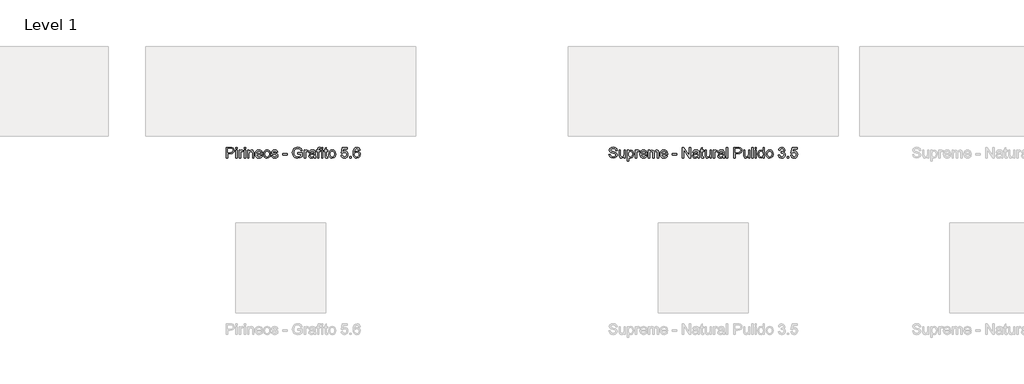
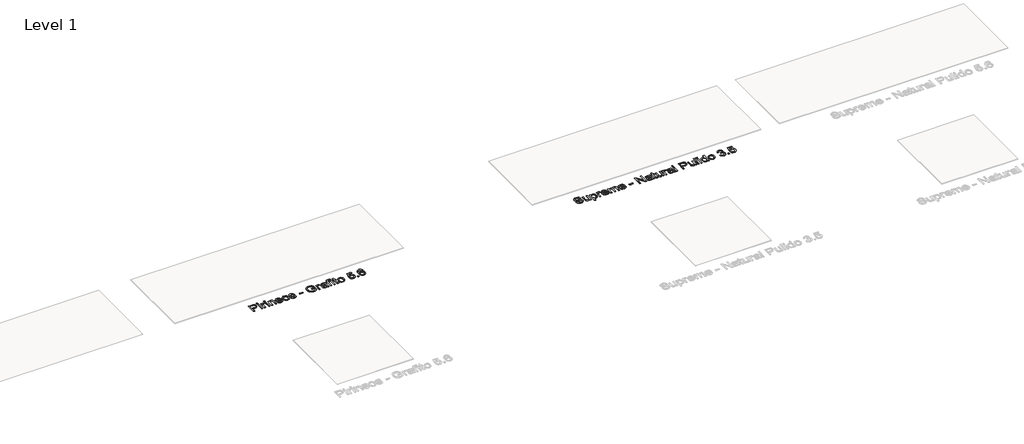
# One storey, part 62 of 80: 2 proxies.
"""IFC4 building model written with IfcOpenShell, lengths in millimetres."""

import ifcopenshell
import ifcopenshell.guid

model = None  # the IFC model being written
_history = None  # IfcOwnerHistory: only IFC2X3 demands one
_inside = {}  # id of a spatial element -> (the spatial element, [elements in it])
_under = {}  # id of a project, library or spatial element -> (it, [spatial elements below it])
_declared = {}  # id of a project -> (the project, [libraries it declares])
_typed = {}  # id of a type object -> (the type object, [elements of that type])
_made_of = {}  # id of a material, layer set ... -> (it, [elements and type objects made of it])


def new_model(schema):
    """Start an empty IFC model of exactly this schema.

    Asked for "IFC4X3", IfcOpenShell would pick the latest addendum, in which some entities
    have other attributes; the version numbers below select the first issue.
    IFC2X3 requires an IfcOwnerHistory on every rooted entity: one is made here for all.
    """
    global model, _history
    if schema == "IFC4X3":
        model = ifcopenshell.file(schema_version=(4, 3, 0, 0))
    else:
        model = ifcopenshell.file(schema=schema)
    _inside.clear()
    _under.clear()
    _declared.clear()
    _typed.clear()
    _made_of.clear()
    _history = None
    if model.schema == "IFC2X3":
        org = make("IfcOrganization", Name="unknown")
        user = make(
            "IfcPersonAndOrganization",
            ThePerson=make("IfcPerson", FamilyName="unknown"),
            TheOrganization=org,
        )
        app = make(
            "IfcApplication",
            ApplicationDeveloper=org,
            Version="unknown",
            ApplicationFullName="unknown",
            ApplicationIdentifier="unknown",
        )
        _history = make(
            "IfcOwnerHistory",
            OwningUser=user,
            OwningApplication=app,
            ChangeAction="ADDED",
            CreationDate=0,
        )
    return model


def make(cls, **values):
    """One entity of the class cls with the attributes given. An attribute that is None is left unset."""
    return model.create_entity(
        cls, **{name: value for name, value in values.items() if value is not None}
    )


def rooted(cls, **values):
    """An entity with a GlobalId (a new one), such as an element, a storey or a relation."""
    return make(cls, GlobalId=ifcopenshell.guid.new(), OwnerHistory=_history, **values)


def si_unit(unit_type, name, prefix=None):
    """IfcSIUnit, for example si_unit("LENGTHUNIT", "METRE", prefix="MILLI")."""
    return make("IfcSIUnit", UnitType=unit_type, Prefix=prefix, Name=name)


def assignment(units):
    """IfcUnitAssignment: the units of a project."""
    return None if units is None else make("IfcUnitAssignment", Units=units)


def point(xyz):
    """IfcCartesianPoint."""
    return None if xyz is None else make("IfcCartesianPoint", Coordinates=xyz)


def direction(xyz):
    """IfcDirection."""
    return None if xyz is None else make("IfcDirection", DirectionRatios=xyz)


def frame(location, z_axis=None, x_axis=None):
    """IfcAxis2Placement3D, a coordinate frame: its origin and axes. An axis left out is left unset."""
    return make(
        "IfcAxis2Placement3D",
        Location=point(location),
        Axis=direction(z_axis),
        RefDirection=direction(x_axis),
    )


def origin():
    """The frame at (0, 0, 0) with its axes left unset."""
    return frame((0.0, 0.0, 0.0))


def origin_with_axes():
    """The frame at (0, 0, 0) with the z axis (0, 0, 1) and the x axis (1, 0, 0) written out."""
    return frame((0.0, 0.0, 0.0), z_axis=(0.0, 0.0, 1.0), x_axis=(1.0, 0.0, 0.0))


def place(relative_to, where):
    """IfcLocalPlacement: puts the frame where relative to a parent placement (None: the world)."""
    return make(
        "IfcLocalPlacement", PlacementRelTo=relative_to, RelativePlacement=where
    )


def context(
    kind, dimensions, precision=None, world=None, true_north=None, identifier=None
):
    """IfcGeometricRepresentationContext, for example the 3D "Model" context."""
    return make(
        "IfcGeometricRepresentationContext",
        ContextIdentifier=identifier,
        ContextType=kind,
        CoordinateSpaceDimension=dimensions,
        Precision=precision,
        WorldCoordinateSystem=world,
        TrueNorth=true_north,
    )


def project(units=None, contexts=None):
    """IfcProject with its units and contexts."""
    return rooted(
        "IfcProject",
        Name="project",
        RepresentationContexts=contexts,
        UnitsInContext=assignment(units),
    )


def spatial(cls, under=None, at=None, **own):
    """A site, building, storey or space (cls), placed at a placement, below another one or the project."""
    s = rooted(cls, ObjectPlacement=at, **own)
    if under is not None:
        _under.setdefault(under.id(), (under, []))[1].append(s)
    return s


def polyline(points):
    """IfcPolyline through the points."""
    return make("IfcPolyline", Points=[point(p) for p in points])


def outline(outer, holes=None, kind="AREA"):
    """IfcArbitraryClosedProfileDef: a profile drawn as a closed curve; with holes, ...WithVoids."""
    if holes is None:
        return make("IfcArbitraryClosedProfileDef", ProfileType=kind, OuterCurve=outer)
    return make(
        "IfcArbitraryProfileDefWithVoids",
        ProfileType=kind,
        OuterCurve=outer,
        InnerCurves=holes,
    )


def extrude(swept, where, along, depth):
    """IfcExtrudedAreaSolid: the profile swept, set in the frame where, extruded along a direction by depth."""
    return make(
        "IfcExtrudedAreaSolid",
        SweptArea=swept,
        Position=where,
        ExtrudedDirection=direction(along),
        Depth=depth,
    )


def shape(context_of_items, identifier, shape_type, items):
    """IfcShapeRepresentation: the items that make up one representation, for example the "Body"."""
    return make(
        "IfcShapeRepresentation",
        ContextOfItems=context_of_items,
        RepresentationIdentifier=identifier,
        RepresentationType=shape_type,
        Items=items,
    )


def made_of(thing, what):
    """Note that an element or type object is made of a material, layer set ...; save() writes the relation."""
    if what is not None:
        _made_of.setdefault(what.id(), (what, []))[1].append(thing)
    return thing


def element(
    cls,
    number,
    at=None,
    inside=None,
    cuts=None,
    type_object=None,
    material=None,
    context=None,
    identifier="Body",
    shape_type=None,
    held_by="IfcProductDefinitionShape",
    body=None,
    shapes=None,
    **own,
):
    """One element of the class cls, such as IfcWall. Its Tag is "e" and its number.

    at: its placement. inside: the storey or other place that contains it. cuts: it is an
    opening in that element (IfcRelVoidsElement). A single representation is given by context,
    identifier, shape_type and body (its items); several are given by shapes. held_by: the class
    of the entity that holds the representations. save() writes the other relations.
    """
    e = rooted(cls, Tag="e%d" % number, ObjectPlacement=at, **own)
    if body is not None:
        shapes = [shape(context, identifier, shape_type, body)]
    if shapes is not None:
        e.Representation = make(held_by, Representations=shapes)
    if inside is not None:
        _inside.setdefault(inside.id(), (inside, []))[1].append(e)
    if cuts is not None:
        rooted(
            "IfcRelVoidsElement", RelatingBuildingElement=cuts, RelatedOpeningElement=e
        )
    if type_object is not None:
        _typed.setdefault(type_object.id(), (type_object, []))[1].append(e)
    return made_of(e, material)


def aggregate(whole, parts):
    """IfcRelAggregates: a whole, such as a stair, and the parts it consists of."""
    return rooted("IfcRelAggregates", RelatingObject=whole, RelatedObjects=parts)


def save(model, path):
    """Write the relations noted so far, then the file.

    IfcRelAggregates (storeys below a building ...), IfcRelContainedInSpatialStructure (elements
    in a storey), IfcRelDefinesByType, IfcRelAssociatesMaterial and IfcRelDeclares: one each for
    every whole, place, type object, material and project.
    """
    for whole, parts in _under.values():
        aggregate(whole, parts)
    for where, things in _inside.values():
        rooted(
            "IfcRelContainedInSpatialStructure",
            RelatedElements=things,
            RelatingStructure=where,
        )
    for kind, things in _typed.values():
        rooted("IfcRelDefinesByType", RelatedObjects=things, RelatingType=kind)
    for what, things in _made_of.values():
        rooted("IfcRelAssociatesMaterial", RelatedObjects=things, RelatingMaterial=what)
    for by, libraries in _declared.values():
        rooted("IfcRelDeclares", RelatingContext=by, RelatedDefinitions=libraries)
    model.write(path)


model = new_model("IFC4")

# Units and contexts
model_context = context("Model", 3, world=origin())
ifc_project = project(units=[si_unit("LENGTHUNIT", "METRE", prefix="MILLI")], contexts=[model_context])

# Site, building, storey
site = spatial("IfcSite", under=ifc_project)
building = spatial("IfcBuilding", under=site)
storey = spatial("IfcBuildingStorey", under=building, Name="Level 1", Elevation=0.0)

# Proxies
placement = place(None, origin())
element("IfcBuildingElementProxy", 1, Name="24\" Arial", ObjectType="24\" Arial", at=placement, inside=storey, context=model_context, shape_type="SweptSolid", body=[
    extrude(outline(polyline([(229.846969, 1348.728562), (229.846969, 1466.8824082), (273.6354306, 1466.8824082), (291.2892767, 1465.7574082), (305.6402383, 1460.2333697), (314.9431229, 1448.8102928), (318.4623536, 1432.6997159), (316.0861517, 1418.7742351), (308.9575459, 1407.1708697), (295.6270171, 1399.339139), (274.6450459, 1396.728562), (244.6161998, 1396.728562), (244.6161998, 1348.728562), (229.846969, 1348.728562)]), holes=[polyline([(244.6161998, 1411.4977928), (275.5104306, 1411.4977928), (288.6065844, 1412.853562), (297.2604306, 1416.9208697), (302.0849498, 1423.447312), (303.6931229, 1432.1804851), (299.8998536, 1444.4112544), (289.9335075, 1451.103562), (275.1642767, 1452.1131774), (244.6161998, 1452.1131774), (244.6161998, 1411.4977928)])]), origin_with_axes(), (0.0, 0.0, 1.0), 2.0),
    extrude(outline(polyline([(336.9238921, 1348.728562), (336.9238921, 1435.4977928), (351.6931229, 1435.4977928), (351.6931229, 1348.728562), (336.9238921, 1348.728562)])), origin_with_axes(), (0.0, 0.0, 1.0), 2.0),
    extrude(outline(polyline([(336.9238921, 1452.1131774), (336.9238921, 1466.8824082), (351.6931229, 1466.8824082), (351.6931229, 1452.1131774), (336.9238921, 1452.1131774)])), origin_with_axes(), (0.0, 0.0, 1.0), 2.0),
    extrude(outline(polyline([(373.846969, 1348.728562), (373.846969, 1435.4977928), (386.7700459, 1435.4977928), (386.7700459, 1422.6612544), (395.9431229, 1434.4881774), (405.1738921, 1437.3439467), (420.0008152, 1432.7862544), (415.0681229, 1419.5458697), (404.6835075, 1422.5747159), (396.3325459, 1419.6612544), (391.0104306, 1411.5843313), (388.6161998, 1394.3343313), (388.6161998, 1348.728562), (373.846969, 1348.728562)])), origin_with_axes(), (0.0, 0.0, 1.0), 2.0),
    extrude(outline(polyline([(429.2315844, 1348.728562), (429.2315844, 1435.4977928), (444.0008152, 1435.4977928), (444.0008152, 1348.728562), (429.2315844, 1348.728562)])), origin_with_axes(), (0.0, 0.0, 1.0), 2.0),
    extrude(outline(polyline([(429.2315844, 1452.1131774), (429.2315844, 1466.8824082), (444.0008152, 1466.8824082), (444.0008152, 1452.1131774), (429.2315844, 1452.1131774)])), origin_with_axes(), (0.0, 0.0, 1.0), 2.0),
    extrude(outline(polyline([(466.1546613, 1348.728562), (466.1546613, 1435.4977928), (480.9238921, 1435.4977928), (480.9238921, 1423.3824082), (492.2171613, 1433.853562), (507.6354306, 1437.3439467), (521.5825459, 1434.5314467), (531.1017767, 1427.1468313), (535.5296613, 1416.2862544), (536.3085075, 1402.0074082), (536.3085075, 1348.728562), (521.5392767, 1348.728562), (521.5392767, 1400.0170236), (519.8373536, 1413.0843313), (513.8229306, 1419.9929851), (503.6835075, 1422.5747159), (487.659469, 1416.776639), (482.6077863, 1408.3751967), (480.9238921, 1394.7670236), (480.9238921, 1348.728562), (466.1546613, 1348.728562)])), origin_with_axes(), (0.0, 0.0, 1.0), 2.0),
    extrude(outline(polyline([(617.3661998, 1374.5747159), (631.846969, 1372.728562), (626.6294209, 1361.8175044), (618.3036998, 1353.6612544), (607.0573056, 1348.5771197), (593.0777383, 1346.8824082), (575.7484113, 1349.806687), (562.4142767, 1358.5795236), (553.9118729, 1372.6312063), (551.0777383, 1391.3920236), (553.940719, 1410.7838505), (562.5296613, 1425.2862544), (575.6835075, 1434.3295236), (592.2411998, 1437.3439467), (608.2832671, 1434.3367351), (621.1017767, 1425.3151005), (629.5068248, 1410.8415428), (632.3085075, 1391.478562), (632.221969, 1387.4977928), (565.846969, 1387.4977928), (568.4034594, 1376.4425044), (574.3421613, 1368.3151005), (582.9130748, 1363.3175044), (593.3661998, 1361.651639), (607.846969, 1364.7381774), (617.3661998, 1374.5747159)]), holes=[polyline([(565.846969, 1402.2670236), (617.5392767, 1402.2670236), (611.6258152, 1415.651639), (603.0152383, 1420.8439467), (592.1835075, 1422.5747159), (573.9960075, 1417.0506774), (568.2736517, 1410.5927447), (565.846969, 1402.2670236)])]), origin_with_axes(), (0.0, 0.0, 1.0), 2.0),
    extrude(outline(polyline([(643.3854306, 1392.1131774), (646.5801421, 1413.0338505), (656.1642767, 1427.7381774), (668.0056229, 1434.9425044), (682.1835075, 1437.3439467), (697.6991325, 1434.4196678), (710.0921613, 1425.6468313), (718.2159594, 1411.7177447), (720.9238921, 1393.3247159), (716.1354306, 1367.0458697), (702.1883152, 1352.1756774), (682.1835075, 1346.8824082), (666.4803825, 1349.7958697), (654.1017767, 1358.5362544), (646.0645171, 1372.7574082), (643.3854306, 1392.1131774)]), holes=[polyline([(658.1546613, 1392.1420236), (659.8637959, 1378.775437), (664.9911998, 1369.2526005), (672.7075459, 1363.5518794), (682.1835075, 1361.651639), (691.6161998, 1363.5626967), (699.3181229, 1369.2958697), (704.4455267, 1378.9449082), (706.1546613, 1392.603562), (704.4347094, 1405.5807255), (699.2748536, 1414.9737544), (691.5621133, 1420.6744755), (682.1835075, 1422.5747159), (672.7075459, 1420.681687), (664.9911998, 1415.0026005), (659.8637959, 1405.5013986), (658.1546613, 1392.1420236)])]), origin_with_axes(), (0.0, 0.0, 1.0), 2.0),
    extrude(outline(polyline([(732.0008152, 1374.5747159), (746.7700459, 1376.4208697), (753.6065844, 1365.4593313), (769.2700459, 1361.651639), (784.3277383, 1365.1420236), (789.2315844, 1373.3343313), (784.2988921, 1379.9689467), (769.096969, 1384.1804851), (746.8565844, 1391.4064467), (737.1498536, 1399.8439467), (733.846969, 1411.7574082), (736.5008152, 1422.7622159), (743.7411998, 1431.1708697), (753.1306229, 1435.541062), (765.8373536, 1437.3439467), (783.8085075, 1434.4449082), (795.2315844, 1426.5987544), (800.3085075, 1413.3439467), (785.5392767, 1411.4977928), (779.9863921, 1419.6468313), (766.9911998, 1422.5747159), (752.8565844, 1419.776639), (748.6161998, 1413.2574082), (750.3758152, 1408.9593313), (755.8854306, 1405.6997159), (768.6065844, 1402.5554851), (790.284469, 1395.603562), (800.3517767, 1387.728562), (804.0008152, 1374.8920236), (799.7171613, 1360.7574082), (787.3565844, 1350.5026005), (769.0681229, 1346.8824082), (754.1762959, 1348.6276005), (743.3085075, 1353.8631774), (736.0536998, 1362.5314467), (732.0008152, 1374.5747159)])), origin_with_axes(), (0.0, 0.0, 1.0), 2.0),
    extrude(outline(polyline([(859.3854306, 1383.8054851), (859.3854306, 1398.5747159), (905.5392767, 1398.5747159), (905.5392767, 1383.8054851), (859.3854306, 1383.8054851)])), origin_with_axes(), (0.0, 0.0, 1.0), 2.0),
    extrude(outline(polyline([(1025.5392767, 1394.8824082), (1025.5392767, 1409.651639), (1073.5392767, 1409.651639), (1073.5392767, 1365.4881774), (1049.8421613, 1351.5554851), (1024.7892767, 1346.8824082), (1008.2207671, 1348.7393794), (993.2460075, 1354.3102928), (980.8061036, 1363.400437), (971.8421613, 1375.8151005), (966.4226902, 1390.7069274), (964.6161998, 1407.228562), (966.4154786, 1423.869187), (971.8133152, 1439.3487544), (980.5861517, 1452.3331294), (992.5104306, 1461.4881774), (1007.034469, 1466.9184659), (1023.6065844, 1468.728562), (1046.7123536, 1464.5314467), (1062.909469, 1452.8487544), (1071.8373536, 1433.3054851), (1058.221969, 1429.4689467), (1051.4863921, 1443.1276005), (1039.9767767, 1451.0026005), (1023.3758152, 1453.9593313), (1004.4671613, 1450.7718313), (991.6017767, 1442.4064467), (984.0008152, 1431.026639), (979.3854306, 1407.8343313), (980.7736517, 1393.7105332), (984.9383152, 1382.089139), (991.753219, 1373.0530813), (1001.0921613, 1366.6852928), (1023.6065844, 1361.651639), (1043.8133152, 1365.4449082), (1058.7700459, 1373.5362544), (1058.7700459, 1394.8824082), (1025.5392767, 1394.8824082)])), origin_with_axes(), (0.0, 0.0, 1.0), 2.0),
    extrude(outline(polyline([(1095.6931229, 1348.728562), (1095.6931229, 1435.4977928), (1108.6161998, 1435.4977928), (1108.6161998, 1422.6612544), (1117.7892767, 1434.4881774), (1127.0200459, 1437.3439467), (1141.846969, 1432.7862544), (1136.9142767, 1419.5458697), (1126.5296613, 1422.5747159), (1118.1786998, 1419.6612544), (1112.8565844, 1411.5843313), (1110.4623536, 1394.3343313), (1110.4623536, 1348.728562), (1095.6931229, 1348.728562)])), origin_with_axes(), (0.0, 0.0, 1.0), 2.0),
    extrude(outline(polyline([(1206.4623536, 1359.8054851), (1192.1402383, 1349.7958697), (1176.3181229, 1346.8824082), (1163.9755748, 1348.634812), (1154.8710075, 1353.8920236), (1149.2568248, 1361.8751967), (1147.3854306, 1371.8054851), (1150.2123536, 1383.4881774), (1157.6402383, 1391.9689467), (1167.9815844, 1396.8151005), (1180.7604306, 1399.0362544), (1206.3758152, 1404.1131774), (1206.4623536, 1407.401639), (1202.3950459, 1418.3054851), (1186.0681229, 1422.5747159), (1171.1258152, 1419.7333697), (1164.0008152, 1409.651639), (1149.2315844, 1411.4977928), (1155.6210075, 1425.9208697), (1168.4863921, 1434.3727928), (1187.971969, 1437.3439467), (1205.8710075, 1434.7189467), (1215.9815844, 1428.1276005), (1220.5104306, 1418.103562), (1221.2315844, 1405.1804851), (1221.2315844, 1386.8054851), (1221.9815844, 1361.1468313), (1224.9238921, 1348.728562), (1210.1546613, 1348.728562), (1206.4623536, 1359.8054851)]), holes=[polyline([(1206.4623536, 1389.3439467), (1182.6354306, 1384.8151005), (1169.9286998, 1382.4208697), (1164.1738921, 1378.526639), (1162.1546613, 1372.8439467), (1166.5536998, 1364.853562), (1179.4623536, 1361.651639), (1194.4046613, 1365.1852928), (1204.0392767, 1373.7381774), (1206.3758152, 1385.1612544), (1206.4623536, 1389.3439467)])]), origin_with_axes(), (0.0, 0.0, 1.0), 2.0),
    extrude(outline(polyline([(1245.2315844, 1348.728562), (1245.2315844, 1420.728562), (1232.3085075, 1420.728562), (1232.3085075, 1435.4977928), (1245.2315844, 1435.4977928), (1245.2315844, 1444.2381774), (1246.7892767, 1456.5554851), (1254.346969, 1465.353562), (1269.2315844, 1468.728562), (1282.7027383, 1467.1131774), (1280.5392767, 1453.2670236), (1272.0296613, 1453.9593313), (1262.7267767, 1451.5074082), (1260.0008152, 1442.3631774), (1260.0008152, 1435.4977928), (1276.6161998, 1435.4977928), (1276.6161998, 1420.728562), (1260.0008152, 1420.728562), (1260.0008152, 1348.728562), (1245.2315844, 1348.728562)])), origin_with_axes(), (0.0, 0.0, 1.0), 2.0),
    extrude(outline(polyline([(1289.5392767, 1348.728562), (1289.5392767, 1435.4977928), (1304.3085075, 1435.4977928), (1304.3085075, 1348.728562), (1289.5392767, 1348.728562)])), origin_with_axes(), (0.0, 0.0, 1.0), 2.0),
    extrude(outline(polyline([(1289.5392767, 1452.1131774), (1289.5392767, 1466.8824082), (1304.3085075, 1466.8824082), (1304.3085075, 1452.1131774), (1289.5392767, 1452.1131774)])), origin_with_axes(), (0.0, 0.0, 1.0), 2.0),
    extrude(outline(polyline([(1357.846969, 1361.0458697), (1359.6931229, 1348.2958697), (1348.6450459, 1346.8824082), (1336.2700459, 1349.3343313), (1330.096969, 1355.7670236), (1328.3085075, 1372.526639), (1328.3085075, 1420.728562), (1317.2315844, 1420.728562), (1317.2315844, 1435.4977928), (1328.3085075, 1435.4977928), (1328.3085075, 1456.5843313), (1343.0777383, 1465.2670236), (1343.0777383, 1435.4977928), (1357.846969, 1435.4977928), (1357.846969, 1420.728562), (1343.0777383, 1420.728562), (1343.0777383, 1372.9593313), (1343.8565844, 1365.3439467), (1346.3806229, 1362.6468313), (1351.4142767, 1361.651639), (1357.846969, 1361.0458697)])), origin_with_axes(), (0.0, 0.0, 1.0), 2.0),
    extrude(outline(polyline([(1368.9238921, 1392.1131774), (1372.1186036, 1413.0338505), (1381.7027383, 1427.7381774), (1393.5440844, 1434.9425044), (1407.721969, 1437.3439467), (1423.237594, 1434.4196678), (1435.6306229, 1425.6468313), (1443.7544209, 1411.7177447), (1446.4623536, 1393.3247159), (1441.6738921, 1367.0458697), (1427.7267767, 1352.1756774), (1407.721969, 1346.8824082), (1392.018844, 1349.7958697), (1379.6402383, 1358.5362544), (1371.6029786, 1372.7574082), (1368.9238921, 1392.1131774)]), holes=[polyline([(1383.6931229, 1392.1420236), (1385.4022575, 1378.775437), (1390.5296613, 1369.2526005), (1398.2460075, 1363.5518794), (1407.721969, 1361.651639), (1417.1546613, 1363.5626967), (1424.8565844, 1369.2958697), (1429.9839883, 1378.9449082), (1431.6931229, 1392.603562), (1429.9731709, 1405.5807255), (1424.8133152, 1414.9737544), (1417.1005748, 1420.6744755), (1407.721969, 1422.5747159), (1398.2460075, 1420.681687), (1390.5296613, 1415.0026005), (1385.4022575, 1405.5013986), (1383.6931229, 1392.1420236)])]), origin_with_axes(), (0.0, 0.0, 1.0), 2.0),
    extrude(outline(polyline([(1505.5392767, 1380.1131774), (1520.3085075, 1381.9593313), (1527.7508152, 1366.7429851), (1543.1835075, 1361.651639), (1553.7700459, 1363.4220717), (1561.7027383, 1368.7333697), (1566.6570652, 1376.9725524), (1568.3085075, 1387.526639), (1566.7616325, 1397.464139), (1562.1210075, 1405.0651005), (1554.3505748, 1409.8896197), (1543.4142767, 1411.4977928), (1530.4479306, 1408.9304851), (1522.1546613, 1402.2670236), (1507.3854306, 1404.1131774), (1520.3085075, 1465.0362544), (1577.5392767, 1465.0362544), (1577.5392767, 1450.2670236), (1532.2508152, 1450.2670236), (1525.9335075, 1417.728562), (1536.4839883, 1424.1324082), (1547.5392767, 1426.2670236), (1561.3385556, 1423.620389), (1572.7940844, 1415.6804851), (1580.5068248, 1403.5795236), (1583.0777383, 1388.4497159), (1580.7628344, 1373.6804851), (1573.8181229, 1361.0458697), (1560.5200459, 1350.4232736), (1543.1258152, 1346.8824082), (1528.6198056, 1349.1576486), (1517.0633152, 1355.9833697), (1509.1414402, 1366.5663024), (1505.5392767, 1380.1131774)])), origin_with_axes(), (0.0, 0.0, 1.0), 2.0),
    extrude(outline(polyline([(1603.3854306, 1348.728562), (1603.3854306, 1363.4977928), (1618.1546613, 1363.4977928), (1618.1546613, 1348.728562), (1603.3854306, 1348.728562)])), origin_with_axes(), (0.0, 0.0, 1.0), 2.0),
    extrude(outline(polyline([(1717.846969, 1435.4977928), (1703.0777383, 1433.651639), (1697.4815844, 1445.9689467), (1690.7820652, 1450.5771197), (1682.6835075, 1452.1131774), (1669.3565844, 1448.5362544), (1659.2748536, 1435.1083697), (1655.0777383, 1408.7862544), (1668.1017767, 1420.5699082), (1684.2411998, 1424.4208697), (1697.8854306, 1421.7886582), (1709.3373536, 1413.8920236), (1717.1041806, 1401.8271197), (1719.6931229, 1386.6901005), (1714.8181229, 1366.3102928), (1701.4046613, 1351.8872159), (1682.0488921, 1346.8824082), (1665.2928825, 1350.1997159), (1651.9479306, 1360.151639), (1643.2183633, 1377.7189467), (1640.3085075, 1403.8824082), (1643.5392767, 1433.2982736), (1653.2315844, 1453.4112544), (1666.4647575, 1463.5146197), (1683.6065844, 1466.8824082), (1696.565719, 1464.7982736), (1706.9431229, 1458.5458697), (1714.2123536, 1448.6155813), (1717.846969, 1435.4977928)]), holes=[polyline([(1655.0777383, 1386.9208697), (1658.4960075, 1374.1276005), (1667.5825459, 1364.839139), (1680.8950459, 1361.651639), (1690.6414402, 1363.3030813), (1698.3036998, 1368.2574082), (1703.268844, 1376.0458697), (1704.9238921, 1386.1997159), (1703.2904786, 1395.9461101), (1698.3902383, 1403.3776005), (1690.5981709, 1408.0831294), (1680.2892767, 1409.651639), (1670.5573056, 1408.0831294), (1662.4190844, 1403.3776005), (1656.9130748, 1396.1263986), (1655.0777383, 1386.9208697)])]), origin_with_axes(), (0.0, 0.0, 1.0), 2.0),
])
element("IfcBuildingElementProxy", 2, Name="24\" Arial", ObjectType="24\" Arial", at=placement, inside=storey, context=model_context, shape_type="SweptSolid", body=[
    extrude(outline(polyline([(4485.846969, 1389.3439467), (4500.6161998, 1389.3439467), (4505.3758152, 1374.5602928), (4517.0008152, 1365.214139), (4534.7123536, 1361.651639), (4550.1450459, 1364.3487544), (4560.1113921, 1371.7622159), (4563.3854306, 1381.6708697), (4560.9335075, 1390.8872159), (4550.8950459, 1397.5939467), (4529.3902383, 1403.2333697), (4506.2411998, 1410.5170236), (4493.6786998, 1421.5074082), (4489.5392767, 1436.1901005), (4494.659469, 1452.9064467), (4509.6161998, 1464.7045236), (4531.5104306, 1468.728562), (4554.8758152, 1464.5170236), (4570.4527383, 1452.1420236), (4576.3085075, 1433.651639), (4561.5392767, 1433.651639), (4558.8277383, 1442.464139), (4553.1738921, 1448.8247159), (4544.3397575, 1452.6756774), (4532.0873536, 1453.9593313), (4519.5464883, 1452.6901005), (4510.9431229, 1448.8824082), (4505.9671613, 1443.2790428), (4504.3085075, 1436.6227928), (4509.0104306, 1426.3824082), (4533.1258152, 1418.1324082), (4559.2604306, 1410.7189467), (4573.5536998, 1398.7477928), (4578.1546613, 1382.0458697), (4572.8613921, 1364.3776005), (4557.6306229, 1351.4833697), (4535.2892767, 1346.8824082), (4508.909469, 1351.8439467), (4499.4226902, 1358.0602928), (4492.221969, 1366.7862544), (4485.846969, 1389.3439467)])), origin_with_axes(), (0.0, 0.0, 1.0), 2.0),
    extrude(outline(polyline([(4653.846969, 1348.728562), (4653.846969, 1363.6420236), (4642.2796613, 1351.072312), (4627.1931229, 1346.8824082), (4613.3036998, 1349.8247159), (4603.7267767, 1357.2093313), (4599.3277383, 1368.0843313), (4598.4623536, 1381.8151005), (4598.4623536, 1435.4977928), (4613.2315844, 1435.4977928), (4613.2315844, 1388.7670236), (4614.1258152, 1373.7093313), (4619.9671613, 1364.8679851), (4630.971969, 1361.651639), (4643.3036998, 1364.9401005), (4651.4527383, 1373.8968313), (4653.846969, 1390.353562), (4653.846969, 1435.4977928), (4668.6161998, 1435.4977928), (4668.6161998, 1348.728562), (4653.846969, 1348.728562)])), origin_with_axes(), (0.0, 0.0, 1.0), 2.0),
    extrude(outline(polyline([(4688.9238921, 1315.4977928), (4688.9238921, 1435.4977928), (4703.6931229, 1435.4977928), (4703.6931229, 1421.0170236), (4713.9046613, 1433.2622159), (4727.6931229, 1437.3439467), (4746.4142767, 1431.6324082), (4758.6450459, 1415.5362544), (4762.7700459, 1392.776639), (4758.1113921, 1368.8487544), (4752.3998536, 1359.4593313), (4744.5825459, 1352.5506774), (4725.9046613, 1346.8824082), (4713.0536998, 1350.6756774), (4703.6931229, 1360.2670236), (4703.6931229, 1315.4977928), (4688.9238921, 1315.4977928)]), holes=[polyline([(4703.6931229, 1391.4208697), (4705.2904786, 1378.1804851), (4710.0825459, 1368.9208697), (4717.1534594, 1363.4689467), (4725.5873536, 1361.651639), (4734.1582671, 1363.5338505), (4741.409469, 1369.1804851), (4746.3529786, 1378.7790428), (4748.0008152, 1392.5170236), (4746.3926421, 1405.6852928), (4741.5681229, 1415.0747159), (4734.5080267, 1420.6997159), (4726.1931229, 1422.5747159), (4717.8457671, 1420.5807255), (4710.5152383, 1414.5987544), (4705.3986517, 1404.8163024), (4703.6931229, 1391.4208697)])]), origin_with_axes(), (0.0, 0.0, 1.0), 2.0),
    extrude(outline(polyline([(4779.3854306, 1348.728562), (4779.3854306, 1435.4977928), (4792.3085075, 1435.4977928), (4792.3085075, 1422.6612544), (4801.4815844, 1434.4881774), (4810.7123536, 1437.3439467), (4825.5392767, 1432.7862544), (4820.6065844, 1419.5458697), (4810.221969, 1422.5747159), (4801.8710075, 1419.6612544), (4796.5488921, 1411.5843313), (4794.1546613, 1394.3343313), (4794.1546613, 1348.728562), (4779.3854306, 1348.728562)])), origin_with_axes(), (0.0, 0.0, 1.0), 2.0),
    extrude(outline(polyline([(4895.5200459, 1374.5747159), (4910.0008152, 1372.728562), (4904.7832671, 1361.8175044), (4896.4575459, 1353.6612544), (4885.2111517, 1348.5771197), (4871.2315844, 1346.8824082), (4853.9022575, 1349.806687), (4840.5681229, 1358.5795236), (4832.065719, 1372.6312063), (4829.2315844, 1391.3920236), (4832.0945652, 1410.7838505), (4840.6835075, 1425.2862544), (4853.8373536, 1434.3295236), (4870.3950459, 1437.3439467), (4886.4371133, 1434.3367351), (4899.2556229, 1425.3151005), (4907.6606709, 1410.8415428), (4910.4623536, 1391.478562), (4910.3758152, 1387.4977928), (4844.0008152, 1387.4977928), (4846.5573056, 1376.4425044), (4852.4960075, 1368.3151005), (4861.0669209, 1363.3175044), (4871.5200459, 1361.651639), (4886.0008152, 1364.7381774), (4895.5200459, 1374.5747159)]), holes=[polyline([(4844.0008152, 1402.2670236), (4895.6931229, 1402.2670236), (4889.7796613, 1415.651639), (4881.1690844, 1420.8439467), (4870.3373536, 1422.5747159), (4852.1498536, 1417.0506774), (4846.4274979, 1410.5927447), (4844.0008152, 1402.2670236)])]), origin_with_axes(), (0.0, 0.0, 1.0), 2.0),
    extrude(outline(polyline([(4925.2315844, 1348.728562), (4925.2315844, 1435.4977928), (4940.0008152, 1435.4977928), (4940.0008152, 1421.2189467), (4950.1546613, 1432.916062), (4964.6065844, 1437.3439467), (4979.4046613, 1432.8295236), (4987.5392767, 1420.1804851), (4999.0633152, 1433.0530813), (5013.6161998, 1437.3439467), (5024.7183633, 1435.5590909), (5032.9286998, 1430.2045236), (5038.0020171, 1421.136014), (5039.6931229, 1408.2093313), (5039.6931229, 1348.728562), (5024.9238921, 1348.728562), (5024.9238921, 1401.8631774), (5023.5536998, 1414.1949082), (5018.5921613, 1420.2670236), (5010.1546613, 1422.5747159), (5002.1534594, 1421.0963505), (4995.6306229, 1416.6612544), (4991.2928825, 1408.9665428), (4989.846969, 1397.7093313), (4989.846969, 1348.728562), (4975.0777383, 1348.728562), (4975.0777383, 1403.5074082), (4971.659469, 1417.8151005), (4960.4527383, 1422.5747159), (4949.5200459, 1419.401639), (4942.2508152, 1410.1131774), (4940.0008152, 1392.4881774), (4940.0008152, 1348.728562), (4925.2315844, 1348.728562)])), origin_with_axes(), (0.0, 0.0, 1.0), 2.0),
    extrude(outline(polyline([(5122.596969, 1374.5747159), (5137.0777383, 1372.728562), (5131.8601902, 1361.8175044), (5123.534469, 1353.6612544), (5112.2880748, 1348.5771197), (5098.3085075, 1346.8824082), (5080.9791806, 1349.806687), (5067.6450459, 1358.5795236), (5059.1426421, 1372.6312063), (5056.3085075, 1391.3920236), (5059.1714883, 1410.7838505), (5067.7604306, 1425.2862544), (5080.9142767, 1434.3295236), (5097.471969, 1437.3439467), (5113.5140363, 1434.3367351), (5126.3325459, 1425.3151005), (5134.737594, 1410.8415428), (5137.5392767, 1391.478562), (5137.4527383, 1387.4977928), (5071.0777383, 1387.4977928), (5073.6342286, 1376.4425044), (5079.5729306, 1368.3151005), (5088.143844, 1363.3175044), (5098.596969, 1361.651639), (5113.0777383, 1364.7381774), (5122.596969, 1374.5747159)]), holes=[polyline([(5071.0777383, 1402.2670236), (5122.7700459, 1402.2670236), (5116.8565844, 1415.651639), (5108.2460075, 1420.8439467), (5097.4142767, 1422.5747159), (5079.2267767, 1417.0506774), (5073.5044209, 1410.5927447), (5071.0777383, 1402.2670236)])]), origin_with_axes(), (0.0, 0.0, 1.0), 2.0),
    extrude(outline(polyline([(5191.0777383, 1383.8054851), (5191.0777383, 1398.5747159), (5237.2315844, 1398.5747159), (5237.2315844, 1383.8054851), (5191.0777383, 1383.8054851)])), origin_with_axes(), (0.0, 0.0, 1.0), 2.0),
    extrude(outline(polyline([(5301.846969, 1348.728562), (5301.846969, 1466.8824082), (5317.6546613, 1466.8824082), (5379.3854306, 1373.276639), (5379.3854306, 1466.8824082), (5394.1546613, 1466.8824082), (5394.1546613, 1348.728562), (5378.346969, 1348.728562), (5316.6161998, 1442.3631774), (5316.6161998, 1348.728562), (5301.846969, 1348.728562)])), origin_with_axes(), (0.0, 0.0, 1.0), 2.0),
    extrude(outline(polyline([(5473.5392767, 1359.8054851), (5459.2171613, 1349.7958697), (5443.3950459, 1346.8824082), (5431.0524979, 1348.634812), (5421.9479306, 1353.8920236), (5416.3337479, 1361.8751967), (5414.4623536, 1371.8054851), (5417.2892767, 1383.4881774), (5424.7171613, 1391.9689467), (5435.0585075, 1396.8151005), (5447.8373536, 1399.0362544), (5473.4527383, 1404.1131774), (5473.5392767, 1407.401639), (5469.471969, 1418.3054851), (5453.1450459, 1422.5747159), (5438.2027383, 1419.7333697), (5431.0777383, 1409.651639), (5416.3085075, 1411.4977928), (5422.6979306, 1425.9208697), (5435.5633152, 1434.3727928), (5455.0488921, 1437.3439467), (5472.9479306, 1434.7189467), (5483.0585075, 1428.1276005), (5487.5873536, 1418.103562), (5488.3085075, 1405.1804851), (5488.3085075, 1386.8054851), (5489.0585075, 1361.1468313), (5492.0008152, 1348.728562), (5477.2315844, 1348.728562), (5473.5392767, 1359.8054851)]), holes=[polyline([(5473.5392767, 1389.3439467), (5449.7123536, 1384.8151005), (5437.0056229, 1382.4208697), (5431.2508152, 1378.526639), (5429.2315844, 1372.8439467), (5433.6306229, 1364.853562), (5446.5392767, 1361.651639), (5461.4815844, 1365.1852928), (5471.1161998, 1373.7381774), (5473.4527383, 1385.1612544), (5473.5392767, 1389.3439467)])]), origin_with_axes(), (0.0, 0.0, 1.0), 2.0),
    extrude(outline(polyline([(5540.0008152, 1361.0458697), (5541.846969, 1348.2958697), (5530.7988921, 1346.8824082), (5518.4238921, 1349.3343313), (5512.2508152, 1355.7670236), (5510.4623536, 1372.526639), (5510.4623536, 1420.728562), (5499.3854306, 1420.728562), (5499.3854306, 1435.4977928), (5510.4623536, 1435.4977928), (5510.4623536, 1456.5843313), (5525.2315844, 1465.2670236), (5525.2315844, 1435.4977928), (5540.0008152, 1435.4977928), (5540.0008152, 1420.728562), (5525.2315844, 1420.728562), (5525.2315844, 1372.9593313), (5526.0104306, 1365.3439467), (5528.534469, 1362.6468313), (5533.5681229, 1361.651639), (5540.0008152, 1361.0458697)])), origin_with_axes(), (0.0, 0.0, 1.0), 2.0),
    extrude(outline(polyline([(5610.1546613, 1348.728562), (5610.1546613, 1363.6420236), (5598.5873536, 1351.072312), (5583.5008152, 1346.8824082), (5569.6113921, 1349.8247159), (5560.034469, 1357.2093313), (5555.6354306, 1368.0843313), (5554.7700459, 1381.8151005), (5554.7700459, 1435.4977928), (5569.5392767, 1435.4977928), (5569.5392767, 1388.7670236), (5570.4335075, 1373.7093313), (5576.2748536, 1364.8679851), (5587.2796613, 1361.651639), (5599.6113921, 1364.9401005), (5607.7604306, 1373.8968313), (5610.1546613, 1390.353562), (5610.1546613, 1435.4977928), (5624.9238921, 1435.4977928), (5624.9238921, 1348.728562), (5610.1546613, 1348.728562)])), origin_with_axes(), (0.0, 0.0, 1.0), 2.0),
    extrude(outline(polyline([(5645.2315844, 1348.728562), (5645.2315844, 1435.4977928), (5658.1546613, 1435.4977928), (5658.1546613, 1422.6612544), (5667.3277383, 1434.4881774), (5676.5585075, 1437.3439467), (5691.3854306, 1432.7862544), (5686.4527383, 1419.5458697), (5676.0681229, 1422.5747159), (5667.7171613, 1419.6612544), (5662.3950459, 1411.5843313), (5660.0008152, 1394.3343313), (5660.0008152, 1348.728562), (5645.2315844, 1348.728562)])), origin_with_axes(), (0.0, 0.0, 1.0), 2.0),
    extrude(outline(polyline([(5756.0008152, 1359.8054851), (5741.6786998, 1349.7958697), (5725.8565844, 1346.8824082), (5713.5140363, 1348.634812), (5704.409469, 1353.8920236), (5698.7952863, 1361.8751967), (5696.9238921, 1371.8054851), (5699.7508152, 1383.4881774), (5707.1786998, 1391.9689467), (5717.5200459, 1396.8151005), (5730.2988921, 1399.0362544), (5755.9142767, 1404.1131774), (5756.0008152, 1407.401639), (5751.9335075, 1418.3054851), (5735.6065844, 1422.5747159), (5720.6642767, 1419.7333697), (5713.5392767, 1409.651639), (5698.7700459, 1411.4977928), (5705.159469, 1425.9208697), (5718.0248536, 1434.3727928), (5737.5104306, 1437.3439467), (5755.409469, 1434.7189467), (5765.5200459, 1428.1276005), (5770.0488921, 1418.103562), (5770.7700459, 1405.1804851), (5770.7700459, 1386.8054851), (5771.5200459, 1361.1468313), (5774.4623536, 1348.728562), (5759.6931229, 1348.728562), (5756.0008152, 1359.8054851)]), holes=[polyline([(5756.0008152, 1389.3439467), (5732.1738921, 1384.8151005), (5719.4671613, 1382.4208697), (5713.7123536, 1378.526639), (5711.6931229, 1372.8439467), (5716.0921613, 1364.853562), (5729.0008152, 1361.651639), (5743.9431229, 1365.1852928), (5753.5777383, 1373.7381774), (5755.9142767, 1385.1612544), (5756.0008152, 1389.3439467)])]), origin_with_axes(), (0.0, 0.0, 1.0), 2.0),
    extrude(outline(polyline([(5791.0777383, 1348.728562), (5791.0777383, 1466.8824082), (5805.846969, 1466.8824082), (5805.846969, 1348.728562), (5791.0777383, 1348.728562)])), origin_with_axes(), (0.0, 0.0, 1.0), 2.0),
    extrude(outline(polyline([(5876.0008152, 1348.728562), (5876.0008152, 1466.8824082), (5919.7892767, 1466.8824082), (5937.4431229, 1465.7574082), (5951.7940844, 1460.2333697), (5961.096969, 1448.8102928), (5964.6161998, 1432.6997159), (5962.2399979, 1418.7742351), (5955.1113921, 1407.1708697), (5941.7808633, 1399.339139), (5920.7988921, 1396.728562), (5890.7700459, 1396.728562), (5890.7700459, 1348.728562), (5876.0008152, 1348.728562)]), holes=[polyline([(5890.7700459, 1411.4977928), (5921.6642767, 1411.4977928), (5934.7604306, 1412.853562), (5943.4142767, 1416.9208697), (5948.2387959, 1423.447312), (5949.846969, 1432.1804851), (5946.0536998, 1444.4112544), (5936.0873536, 1451.103562), (5921.3181229, 1452.1131774), (5890.7700459, 1452.1131774), (5890.7700459, 1411.4977928)])]), origin_with_axes(), (0.0, 0.0, 1.0), 2.0),
    extrude(outline(polyline([(6038.4623536, 1348.728562), (6038.4623536, 1363.6420236), (6026.8950459, 1351.072312), (6011.8085075, 1346.8824082), (5997.9190844, 1349.8247159), (5988.3421613, 1357.2093313), (5983.9431229, 1368.0843313), (5983.0777383, 1381.8151005), (5983.0777383, 1435.4977928), (5997.846969, 1435.4977928), (5997.846969, 1388.7670236), (5998.7411998, 1373.7093313), (6004.5825459, 1364.8679851), (6015.5873536, 1361.651639), (6027.9190844, 1364.9401005), (6036.0681229, 1373.8968313), (6038.4623536, 1390.353562), (6038.4623536, 1435.4977928), (6053.2315844, 1435.4977928), (6053.2315844, 1348.728562), (6038.4623536, 1348.728562)])), origin_with_axes(), (0.0, 0.0, 1.0), 2.0),
    extrude(outline(polyline([(6073.5392767, 1348.728562), (6073.5392767, 1466.8824082), (6088.3085075, 1466.8824082), (6088.3085075, 1348.728562), (6073.5392767, 1348.728562)])), origin_with_axes(), (0.0, 0.0, 1.0), 2.0),
    extrude(outline(polyline([(6110.4623536, 1452.1131774), (6110.4623536, 1466.8824082), (6125.2315844, 1466.8824082), (6125.2315844, 1452.1131774), (6110.4623536, 1452.1131774)])), origin_with_axes(), (0.0, 0.0, 1.0), 2.0),
    extrude(outline(polyline([(6110.4623536, 1348.728562), (6110.4623536, 1435.4977928), (6125.2315844, 1435.4977928), (6125.2315844, 1348.728562), (6110.4623536, 1348.728562)])), origin_with_axes(), (0.0, 0.0, 1.0), 2.0),
    extrude(outline(polyline([(6200.9238921, 1348.728562), (6200.9238921, 1362.6612544), (6191.1522575, 1350.8271197), (6177.6450459, 1346.8824082), (6159.3565844, 1352.5939467), (6146.4335075, 1368.5314467), (6141.846969, 1392.026639), (6146.0729306, 1415.5362544), (6151.3517767, 1424.8607736), (6158.7363921, 1431.7189467), (6177.5873536, 1437.3439467), (6191.2027383, 1433.3199082), (6200.9238921, 1422.8631774), (6200.9238921, 1466.8824082), (6215.6931229, 1466.8824082), (6215.6931229, 1348.728562), (6200.9238921, 1348.728562)]), holes=[polyline([(6156.6161998, 1392.0843313), (6158.2820652, 1378.7249563), (6163.2796613, 1369.2237544), (6170.5416806, 1363.5446678), (6179.0008152, 1361.651639), (6187.456344, 1363.4581294), (6194.534469, 1368.8776005), (6199.3265363, 1378.011014), (6200.9238921, 1390.9593313), (6199.2976902, 1405.1155813), (6194.4190844, 1414.9304851), (6187.1606709, 1420.6636582), (6178.3950459, 1422.5747159), (6169.8493729, 1420.7393794), (6162.846969, 1415.2333697), (6158.1738921, 1405.775437), (6156.6161998, 1392.0843313)])]), origin_with_axes(), (0.0, 0.0, 1.0), 2.0),
    extrude(outline(polyline([(6234.1546613, 1392.1131774), (6237.3493729, 1413.0338505), (6246.9335075, 1427.7381774), (6258.7748536, 1434.9425044), (6272.9527383, 1437.3439467), (6288.4683633, 1434.4196678), (6300.8613921, 1425.6468313), (6308.9851902, 1411.7177447), (6311.6931229, 1393.3247159), (6306.9046613, 1367.0458697), (6292.9575459, 1352.1756774), (6272.9527383, 1346.8824082), (6257.2496133, 1349.7958697), (6244.8710075, 1358.5362544), (6236.8337479, 1372.7574082), (6234.1546613, 1392.1131774)]), holes=[polyline([(6248.9238921, 1392.1420236), (6250.6330267, 1378.775437), (6255.7604306, 1369.2526005), (6263.4767767, 1363.5518794), (6272.9527383, 1361.651639), (6282.3854306, 1363.5626967), (6290.0873536, 1369.2958697), (6295.2147575, 1378.9449082), (6296.9238921, 1392.603562), (6295.2039402, 1405.5807255), (6290.0440844, 1414.9737544), (6282.331344, 1420.6744755), (6272.9527383, 1422.5747159), (6263.4767767, 1420.681687), (6255.7604306, 1415.0026005), (6250.6330267, 1405.5013986), (6248.9238921, 1392.1420236)])]), origin_with_axes(), (0.0, 0.0, 1.0), 2.0),
    extrude(outline(polyline([(6370.7700459, 1380.1131774), (6385.5392767, 1381.9593313), (6393.6883152, 1366.4112544), (6408.9335075, 1361.651639), (6419.0585075, 1363.2886582), (6426.8758152, 1368.1997159), (6431.8734113, 1375.526639), (6433.5392767, 1384.4112544), (6431.8878344, 1392.8451486), (6426.9335075, 1399.6852928), (6419.4335075, 1404.2177447), (6410.1450459, 1405.728562), (6399.7892767, 1404.1131774), (6401.4335075, 1418.8824082), (6403.7988921, 1418.7093313), (6420.5585075, 1422.9497159), (6426.1402383, 1428.3295236), (6428.0008152, 1435.9881774), (6422.6065844, 1447.541062), (6408.7027383, 1452.1131774), (6394.6258152, 1447.4977928), (6387.3854306, 1433.651639), (6372.6161998, 1435.4977928), (6376.9647575, 1448.759812), (6384.7027383, 1458.6612544), (6395.2892767, 1464.8271197), (6408.1835075, 1466.8824082), (6425.9960075, 1462.8295236), (6438.4575459, 1451.7526005), (6442.7700459, 1436.853562), (6438.6738921, 1423.2381774), (6426.5585075, 1413.4593313), (6435.8036998, 1409.7237544), (6442.6546613, 1403.3631774), (6446.8950459, 1394.7237544), (6448.3085075, 1384.151639), (6445.4815844, 1369.7574082), (6437.0008152, 1357.728562), (6424.2003344, 1349.5939467), (6408.4142767, 1346.8824082), (6394.1354306, 1349.197312), (6382.5104306, 1356.1420236), (6374.4262959, 1366.7646197), (6370.7700459, 1380.1131774)])), origin_with_axes(), (0.0, 0.0, 1.0), 2.0),
    extrude(outline(polyline([(6468.6161998, 1348.728562), (6468.6161998, 1363.4977928), (6483.3854306, 1363.4977928), (6483.3854306, 1348.728562), (6468.6161998, 1348.728562)])), origin_with_axes(), (0.0, 0.0, 1.0), 2.0),
    extrude(outline(polyline([(6507.3854306, 1380.1131774), (6522.1546613, 1381.9593313), (6529.596969, 1366.7429851), (6545.0296613, 1361.651639), (6555.6161998, 1363.4220717), (6563.5488921, 1368.7333697), (6568.503219, 1376.9725524), (6570.1546613, 1387.526639), (6568.6077863, 1397.464139), (6563.9671613, 1405.0651005), (6556.1967286, 1409.8896197), (6545.2604306, 1411.4977928), (6532.2940844, 1408.9304851), (6524.0008152, 1402.2670236), (6509.2315844, 1404.1131774), (6522.1546613, 1465.0362544), (6579.3854306, 1465.0362544), (6579.3854306, 1450.2670236), (6534.096969, 1450.2670236), (6527.7796613, 1417.728562), (6538.3301421, 1424.1324082), (6549.3854306, 1426.2670236), (6563.1847094, 1423.620389), (6574.6402383, 1415.6804851), (6582.3529786, 1403.5795236), (6584.9238921, 1388.4497159), (6582.6089883, 1373.6804851), (6575.6642767, 1361.0458697), (6562.3661998, 1350.4232736), (6544.971969, 1346.8824082), (6530.4659594, 1349.1576486), (6518.909469, 1355.9833697), (6510.987594, 1366.5663024), (6507.3854306, 1380.1131774)])), origin_with_axes(), (0.0, 0.0, 1.0), 2.0),
])

save(model, "model.ifc")
